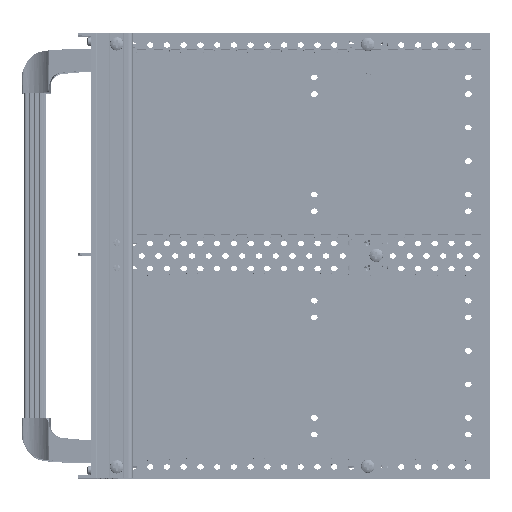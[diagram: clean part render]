
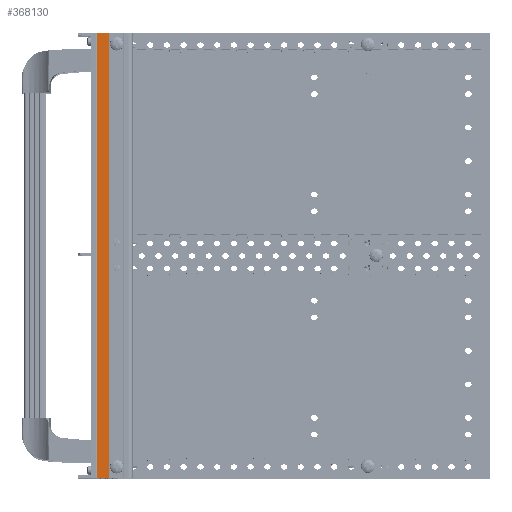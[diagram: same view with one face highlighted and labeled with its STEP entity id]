
A CAD part, top view. The second image highlights one B-rep face of the part: STEP entity #368130.
In plain terms, the highlighted planar face has unit normal (0, 0, 1) as drawn and (0, 0, -1) by its records, which use the part's own axes.
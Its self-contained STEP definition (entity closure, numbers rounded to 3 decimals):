
#364140=CARTESIAN_POINT('',(-1423.213,1461.571,-5.));
#364150=VERTEX_POINT('',#364140);
#365550=CARTESIAN_POINT('',(-1415.613,1461.571,-5.));
#365560=VERTEX_POINT('',#365550);
#365590=CARTESIAN_POINT('',(0.,1461.571,-5.));
#365600=DIRECTION('',(-1.,0.,0.));
#365610=VECTOR('',#365600,1.);
#365620=LINE('',#365590,#365610);
#365630=EDGE_CURVE('',#365560,#364150,#365620,.T.);
#367830=CARTESIAN_POINT('',(-1423.213,1594.071,-5.));
#367840=DIRECTION('',(0.,0.,1.));
#367850=DIRECTION('',(-1.,0.,0.));
#367860=AXIS2_PLACEMENT_3D('',#367830,#367840,#367850);
#367870=PLANE('',#367860);
#367880=CARTESIAN_POINT('',(-1415.613,1594.071,-5.));
#367890=DIRECTION('',(0.,-1.,-0.));
#367900=VECTOR('',#367890,1.);
#367910=LINE('',#367880,#367900);
#367920=CARTESIAN_POINT('',(-1415.613,1727.571,-5.));
#367930=VERTEX_POINT('',#367920);
#367940=EDGE_CURVE('',#367930,#365560,#367910,.T.);
#367950=ORIENTED_EDGE('',*,*,#367940,.T.);
#367960=CARTESIAN_POINT('',(-1423.213,1727.571,-5.));
#367970=DIRECTION('',(1.,0.,0.));
#367980=VECTOR('',#367970,1.);
#367990=LINE('',#367960,#367980);
#368000=CARTESIAN_POINT('',(-1423.213,1727.571,-5.));
#368010=VERTEX_POINT('',#368000);
#368020=EDGE_CURVE('',#368010,#367930,#367990,.T.);
#368030=ORIENTED_EDGE('',*,*,#368020,.T.);
#368040=CARTESIAN_POINT('',(-1423.213,1594.071,-5.));
#368050=DIRECTION('',(0.,1.,0.));
#368060=VECTOR('',#368050,1.);
#368070=LINE('',#368040,#368060);
#368080=EDGE_CURVE('',#364150,#368010,#368070,.T.);
#368090=ORIENTED_EDGE('',*,*,#368080,.T.);
#368100=ORIENTED_EDGE('',*,*,#365630,.T.);
#368110=EDGE_LOOP('',(#368100,#368090,#368030,#367950));
#368120=FACE_OUTER_BOUND('',#368110,.T.);
#368130=ADVANCED_FACE('',(#368120),#367870,.F.);
